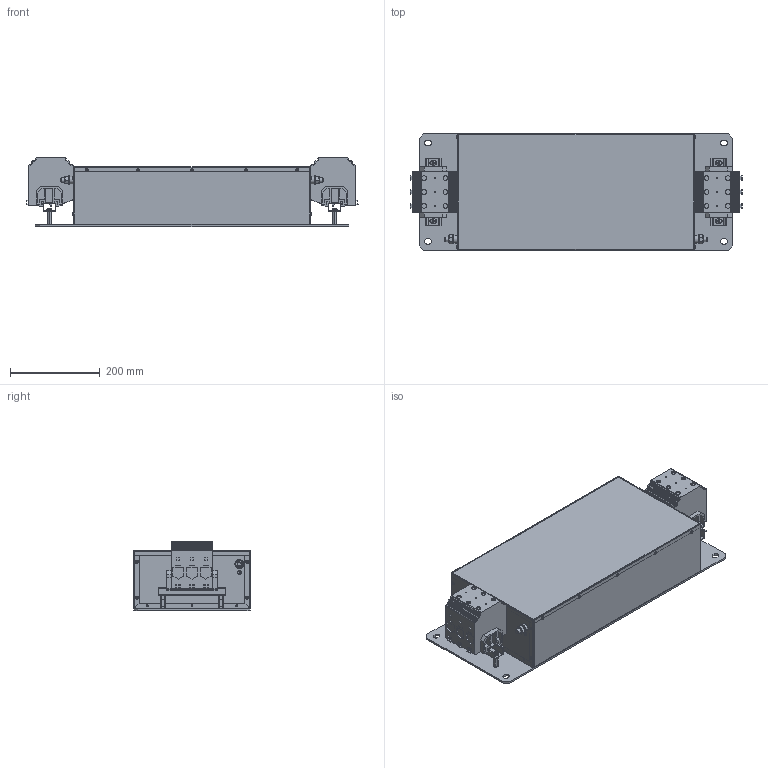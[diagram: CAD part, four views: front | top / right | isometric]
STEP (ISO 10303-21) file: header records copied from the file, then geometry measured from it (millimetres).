
FILE_DESCRIPTION((''),'2;1');
FILE_NAME('L:\INVENTOR_Projektedaten\HousingDesign\FN351-280-37_forStep.stp','2010-02-17T10:58:30',('giovanni.asta'),(''),'Autodesk Inventor 2008','Autodesk Inventor 2008','');
FILE_SCHEMA(('AUTOMOTIVE_DESIGN { 1 0 10303 214 1 1 1 1 }'));
Length unit declared in the file: millimetre
Products named in the file (1): FN351-280-37_forStep
Bounding box: 740.4 x 262 x 155 mm (x, y, z)
Volume: 3156459.4 mm3; surface area: 1241058.5 mm2
Topology: 1 solids, 31 shells, 2587 faces, 6707 edges, 4345 vertices
Faces by surface type: plane 1457, cylinder 732, bspline 262, cone 114, torus 18, sphere 4
Full cylindrical faces by diameter (mm): 3 x6, 3.2 x18, 3.3 x25, 3.5 x9, 4.3 x7, 4.773 x4, 4.917 x8, 5.5 x4, 6 x4, 6.2 x2, 6.4 x4, 6.5 x10, 6.8 x8, 8 x1, 9 x1, 9.188 x2, 10 x4, 10.5 x4, 10.509 x12, 13 x1, 15.4 x2, 16.5 x2, 20 x2
Entity records: 82061 total; most frequent: CARTESIAN_POINT 17282, DIRECTION 12728, ORIENTED_EDGE 12708, EDGE_CURVE 6354, AXIS2_PLACEMENT_3D 4308, VERTEX_POINT 4272, VECTOR 4112, LINE 4112
